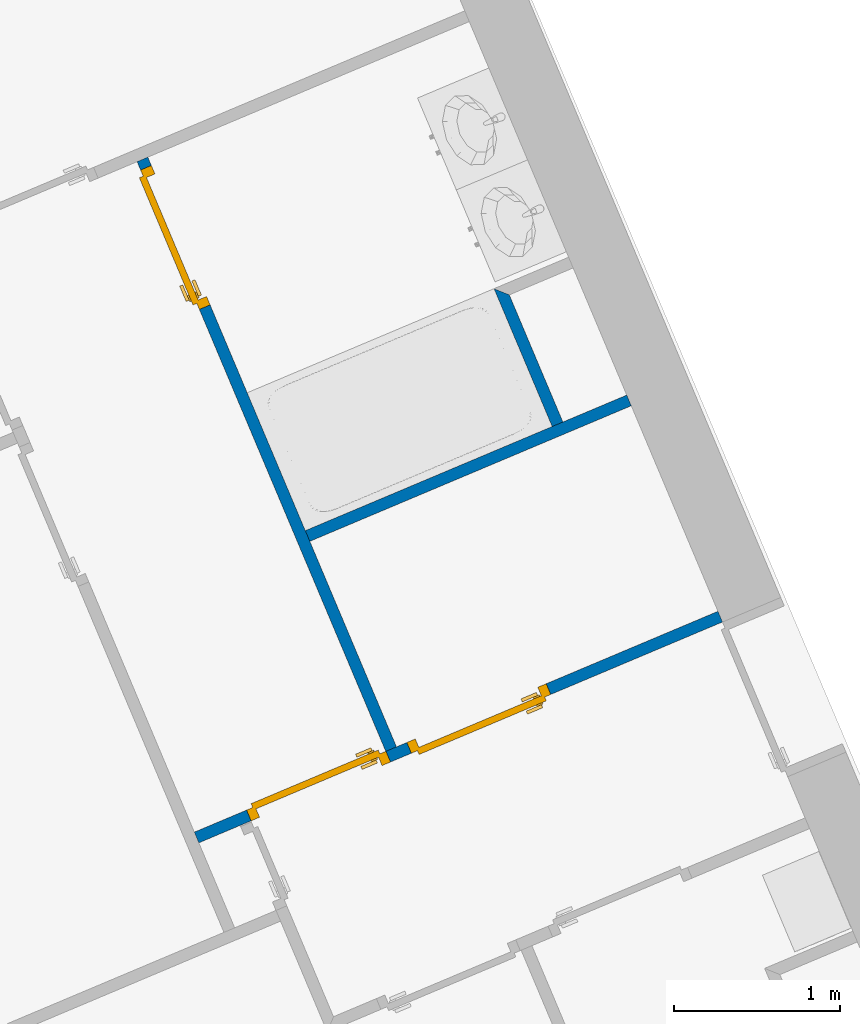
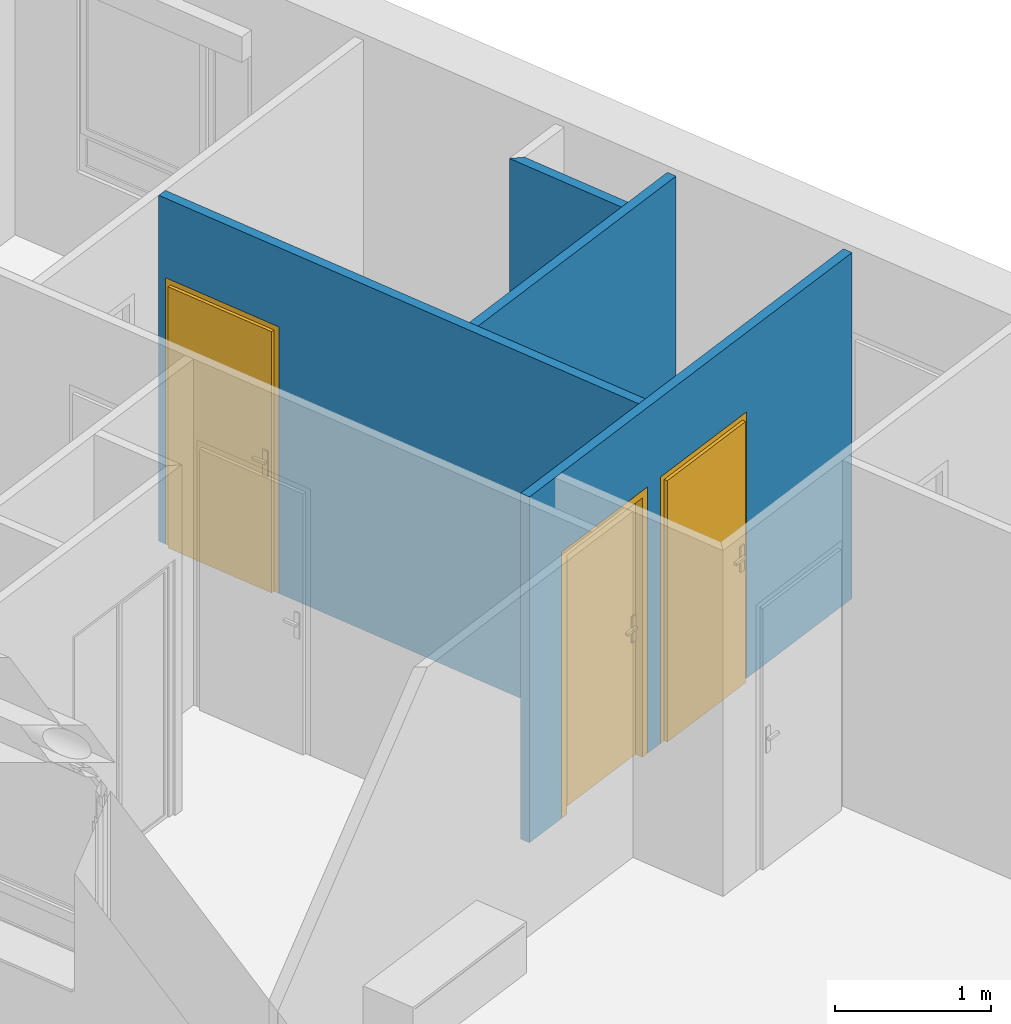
# One storey, part 53 of 195: 4 walls, 3 doors, 3 openings.
"""IFC2X3 building model written with IfcOpenShell, lengths in metres."""

from ifc_helpers import new_model, entity, si_unit, converted_unit, derived_unit, money_unit, direction, frame, origin_with_axes, origin_2d_with_axis, place, context, subcontext, project, spatial, polyline, rectangle, outline, extrude, faceted_brep, source, transform, mapped, material, layer, layer_set, layer_usage, type_object, element, fill, save


model = new_model("IFC2X3")

# Units and contexts
model_context = context("Model", 3, precision=1e-05, world=origin_with_axes(), true_north=direction((0.0, 1.0)))
body_context = subcontext(model_context, "Body", "Model", "MODEL_VIEW")
ifc_project = project(units=[si_unit("LENGTHUNIT", "METRE"), si_unit("AREAUNIT", "SQUARE_METRE"), si_unit("VOLUMEUNIT", "CUBIC_METRE"), converted_unit("PLANEANGLEUNIT", "DEGREE", entity("IfcPlaneAngleMeasure", 0.0174532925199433), si_unit("PLANEANGLEUNIT", "RADIAN"), dimensions=[0, 0, 0, 0, 0, 0, 0]), money_unit("CHF"), converted_unit("TIMEUNIT", "Year", entity("IfcTimeMeasure", 31557600.0), si_unit("TIMEUNIT", "SECOND"), dimensions=[0, 0, 1, 0, 0, 0, 0]), si_unit("MASSUNIT", "GRAM", prefix="KILO"), si_unit("THERMODYNAMICTEMPERATUREUNIT", "DEGREE_CELSIUS"), si_unit("LUMINOUSINTENSITYUNIT", "LUMEN"), si_unit("ENERGYUNIT", "JOULE", prefix="MEGA"), derived_unit("THERMALCONDUCTANCEUNIT", [(si_unit("POWERUNIT", "WATT"), 1), (si_unit("LENGTHUNIT", "METRE"), -1), (si_unit("THERMODYNAMICTEMPERATUREUNIT", "KELVIN"), -1)]), derived_unit("SPECIFICHEATCAPACITYUNIT", [(si_unit("ENERGYUNIT", "JOULE"), 1), (si_unit("MASSUNIT", "GRAM", prefix="KILO"), -1), (si_unit("THERMODYNAMICTEMPERATUREUNIT", "KELVIN"), -1)]), derived_unit("MASSDENSITYUNIT", [(si_unit("MASSUNIT", "GRAM", prefix="KILO"), 1), (si_unit("VOLUMEUNIT", "CUBIC_METRE"), -1)])], contexts=[model_context])

# Site, building, storey
site_placement = place(None, origin_with_axes())
site = spatial("IfcSite", under=ifc_project, at=site_placement, Name="Site", CompositionType="ELEMENT")
building_placement = place(site_placement, origin_with_axes())
building = spatial("IfcBuilding", under=site, at=building_placement, Name="Bâtiment", CompositionType="ELEMENT")
storey_placement = place(building_placement, origin_with_axes())
storey = spatial("IfcBuildingStorey", under=building, at=storey_placement, Name="rdc", CompositionType="ELEMENT", Elevation=0.0)

# Walls
ifc_material = material(Name="Hachure solide 268963992")
ifc_layer = layer(ifc_material, 0.07, ventilated="UNKNOWN")
ifc_layer_set = layer_set([ifc_layer], Name="Cloison 70 0826278243")
ifc_layer_usage_1 = layer_usage(ifc_layer_set, "AXIS2", "NEGATIVE", 0.0)
wall_type = type_object("IfcWallType", Name="Cloison 70 0826278243 70", PredefinedType="NOTDEFINED")
wall_1_placement = place(storey_placement, frame((9571.416717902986, -1046.925586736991, 57.7), z_axis=(0.0, 0.0, 1.0), x_axis=(0.3885669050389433, -0.9214205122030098, 0.0)))
element("IfcWallStandardCase", 1, at=wall_1_placement, inside=storey, type_object=wall_type, material=ifc_layer_usage_1, Name="Mur-149", context=body_context, shape_type="SweptSolid", body=[
    extrude(outline(polyline([(-0.06999999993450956, -0.07000000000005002), (0.8299999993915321, -0.07000000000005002), (0.8299999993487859, 0.0), (0.0, 0.0), (-0.06999999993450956, -0.07000000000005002)])), origin_with_axes(), (0.0, 0.0, 1.0), 2.7),
])
ifc_layer_usage_2 = layer_usage(ifc_layer_set, "AXIS2", "NEGATIVE", 0.0)
wall_2_placement = place(storey_placement, frame((9572.500812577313, -1047.445172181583, 57.7), z_axis=(0.0, 0.0, 1.0), x_axis=(-0.9214205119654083, -0.388566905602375, 0.0)))
element("IfcWallStandardCase", 2, at=wall_2_placement, inside=storey, type_object=wall_type, material=ifc_layer_usage_2, Name="Mur-149", context=body_context, shape_type="SweptSolid", body=[
    extrude(outline(polyline([(0.3799999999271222, -0.06999999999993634), (2.478769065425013, -0.06999999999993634), (2.478769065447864, 0.0), (0.3799999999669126, 0.0), (0.3799999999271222, -0.06999999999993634)])), origin_with_axes(), (0.0, 0.0, 1.0), 2.7),
])

# Wall, openings, doors
ifc_layer_usage_3 = layer_usage(ifc_layer_set, "AXIS2", "NEGATIVE", 0.0)
wall_3_placement = place(storey_placement, frame((9573.049362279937, -1048.745964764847, 57.7), z_axis=(0.0, 0.0, 1.0), x_axis=(-0.921420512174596, -0.3885669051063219, 0.0)))
wall_3 = element("IfcWallStandardCase", 3, at=wall_3_placement, inside=storey, type_object=wall_type, material=ifc_layer_usage_3, Name="Mur-149", context=body_context, shape_type="SweptSolid", body=[
    extrude(outline(polyline([(0.3799999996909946, -0.07000000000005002), (3.798769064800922, -0.06999999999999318), (3.798769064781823, 0.0), (0.379999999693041, 0.0), (0.3799999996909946, -0.07000000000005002)])), origin_with_axes(), (0.0, 0.0, 1.0), 2.7),
])
opening_1_placement = place(wall_3_placement, frame((1.956257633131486, 0.0, 0.0), z_axis=(0.0, 0.0, 1.0), x_axis=(1.0, 0.0, 0.0)))
opening_1 = element("IfcOpeningElement", 4, at=opening_1_placement, cuts=wall_3, Name="Por-299", context=body_context, shape_type="SweptSolid", body=[
    extrude(rectangle(XDim=0.9099999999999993, YDim=2.079999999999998, at=origin_2d_with_axis()), frame((0.0, -0.06999999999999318, 1.039999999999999), z_axis=(0.0, 1.0, 0.0), x_axis=(1.0, 0.0, 0.0)), (0.0, 0.0, 1.0), 0.14),
])
opening_2_placement = place(wall_3_placement, frame((3.002404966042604, 0.0, 0.0), z_axis=(0.0, 0.0, 1.0), x_axis=(1.0, 0.0, 0.0)))
opening_2 = element("IfcOpeningElement", 5, at=opening_2_placement, cuts=wall_3, Name="Por-299", context=body_context, shape_type="SweptSolid", body=[
    extrude(rectangle(XDim=0.9099999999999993, YDim=2.079999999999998, at=origin_2d_with_axis()), frame((0.0, 0.06999999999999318, 1.039999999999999), z_axis=(0.0, 1.0, 0.0), x_axis=(1.0, 0.0, 0.0)), (0.0, 0.0, -1.0), 0.14),
])
door_style = type_object("IfcDoorStyle", Name="Porte_1v", ConstructionType="NOTDEFINED", OperationType="NOTDEFINED", ParameterTakesPrecedence=False, Sizeable=False)
shared_shape_1 = source(origin_with_axes(), body_context, "Body", "Brep", [
    faceted_brep([(0.455, 0.0, 0.0), (0.415, 0.0, 0.0), (0.415, 0.0, 2.04), (-0.415, 0.0, 2.04), (-0.415, 0.0, 0.0), (-0.455, 0.0, 0.0), (-0.455, 0.0, 2.08), (0.455, 0.0, 2.08), (0.455, -0.07, 0.0), (0.4, -0.07, 0.0), (0.4, -0.015, 0.0), (0.415, -0.015, 0.0), (0.415, -0.015, 2.04), (-0.415, -0.015, 2.04), (-0.415, -0.015, 0.0), (-0.4, -0.015, 0.0), (-0.4, -0.07, 0.0), (-0.455, -0.07, 0.0), (-0.455, -0.07, 2.08), (0.455, -0.07, 2.08), (-0.4, -0.07, 2.025), (0.4, -0.07, 2.025), (0.4, -0.015, 2.025), (-0.4, -0.015, 2.025)], [[[0, 1, 2, 3, 4, 5, 6, 7]], [[0, 8, 9, 10, 11, 1]], [[1, 11, 12, 2]], [[2, 12, 13, 3]], [[3, 13, 14, 4]], [[5, 4, 14, 15, 16, 17]], [[18, 6, 5, 17]], [[19, 7, 6, 18]], [[8, 0, 7, 19]], [[9, 8, 19, 18, 17, 16, 20, 21]], [[10, 9, 21, 22]], [[11, 10, 22, 23, 15, 14, 13, 12]], [[23, 20, 16, 15]], [[22, 21, 20, 23]]]),
    faceted_brep([(-0.35, -0.015, 0.9), (-0.39, -0.015, 0.9), (-0.39, -0.015, 1.1), (-0.35, -0.015, 1.1), (-0.35, -0.025, 0.9), (-0.39, -0.025, 0.9), (-0.39, -0.025, 1.1), (-0.35, -0.025, 1.1)], [[[0, 1, 2, 3]], [[1, 0, 4, 5]], [[2, 1, 5, 6]], [[3, 2, 6, 7]], [[0, 3, 7, 4]], [[5, 4, 7, 6]]]),
    faceted_brep([(-0.28, -0.025, 1.0), (-0.38, -0.025, 1.0), (-0.38, -0.025, 1.02), (-0.28, -0.025, 1.02), (-0.28, -0.045, 1.0), (-0.38, -0.045, 1.0), (-0.38, -0.045, 1.02), (-0.28, -0.045, 1.02)], [[[0, 1, 2, 3]], [[1, 0, 4, 5]], [[2, 1, 5, 6]], [[3, 2, 6, 7]], [[0, 3, 7, 4]], [[5, 4, 7, 6]]]),
    faceted_brep([(-0.35, 0.035, 0.9), (-0.39, 0.035, 0.9), (-0.39, 0.035, 1.1), (-0.35, 0.035, 1.1), (-0.35, 0.025, 0.9), (-0.39, 0.025, 0.9), (-0.39, 0.025, 1.1), (-0.35, 0.025, 1.1)], [[[0, 1, 2, 3]], [[1, 0, 4, 5]], [[2, 1, 5, 6]], [[3, 2, 6, 7]], [[0, 3, 7, 4]], [[5, 4, 7, 6]]]),
    faceted_brep([(-0.28, 0.05500000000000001, 1.0), (-0.38, 0.05500000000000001, 1.0), (-0.38, 0.05500000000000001, 1.02), (-0.28, 0.05500000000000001, 1.02), (-0.28, 0.035, 1.0), (-0.38, 0.035, 1.0), (-0.38, 0.035, 1.02), (-0.28, 0.035, 1.02)], [[[0, 1, 2, 3]], [[1, 0, 4, 5]], [[2, 1, 5, 6]], [[3, 2, 6, 7]], [[0, 3, 7, 4]], [[5, 4, 7, 6]]]),
    faceted_brep([(-0.415, 0.025, 0.0), (0.415, 0.025, 0.0), (0.415, -0.015, 0.0), (-0.415, -0.015, 0.0), (-0.415, 0.025, 2.04), (0.415, 0.025, 2.04), (0.415, -0.015, 2.04), (-0.415, -0.015, 2.04)], [[[0, 1, 2, 3]], [[0, 4, 5, 1]], [[1, 5, 6, 2]], [[3, 2, 6, 7]], [[4, 0, 3, 7]], [[5, 4, 7, 6]]]),
])
door_1_placement = place(opening_1_placement, frame((-0.4149999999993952, 0.0, 0.0), z_axis=(0.0, 0.0, 1.0), x_axis=(1.0, 0.0, 0.0)))
door_1 = element("IfcDoor", 6, at=door_1_placement, inside=storey, type_object=door_style, Name="Por-299", OverallHeight=2.04, OverallWidth=0.83, context=body_context, shape_type="MappedRepresentation", body=[
    mapped(shared_shape_1, transform((0.4149999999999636, 0.0, 0.0))),
])
fill(opening_1, door_1)
shared_shape_2 = source(origin_with_axes(), body_context, "Body", "Brep", [
    faceted_brep([(-0.455, 0.0, 0.0), (-0.455, 0.0, 2.08), (0.455, 0.0, 2.08), (0.455, 0.0, 0.0), (0.415, 0.0, 0.0), (0.415, 0.0, 2.04), (-0.415, 0.0, 2.04), (-0.415, 0.0, 0.0), (-0.455, -0.07, 0.0), (-0.455, -0.07, 2.08), (0.455, -0.07, 2.08), (0.455, -0.07, 0.0), (0.4, -0.07, 0.0), (0.4, -0.015, 0.0), (0.415, -0.015, 0.0), (0.415, -0.015, 2.04), (-0.415, -0.015, 2.04), (-0.415, -0.015, 0.0), (-0.4, -0.015, 0.0), (-0.4, -0.07, 0.0), (-0.4, -0.07, 2.025), (0.4, -0.07, 2.025), (0.4, -0.015, 2.025), (-0.4, -0.015, 2.025)], [[[0, 1, 2, 3, 4, 5, 6, 7]], [[8, 9, 1, 0]], [[9, 10, 2, 1]], [[10, 11, 3, 2]], [[3, 11, 12, 13, 14, 4]], [[5, 4, 14, 15]], [[6, 5, 15, 16]], [[7, 6, 16, 17]], [[0, 7, 17, 18, 19, 8]], [[19, 20, 21, 12, 11, 10, 9, 8]], [[22, 13, 12, 21]], [[17, 16, 15, 14, 13, 22, 23, 18]], [[18, 23, 20, 19]], [[23, 22, 21, 20]]]),
    faceted_brep([(0.35, -0.015, 0.9), (0.35, -0.015, 1.1), (0.39, -0.015, 1.1), (0.39, -0.015, 0.9), (0.35, -0.025, 0.9), (0.35, -0.025, 1.1), (0.39, -0.025, 1.1), (0.39, -0.025, 0.9)], [[[0, 1, 2, 3]], [[0, 4, 5, 1]], [[1, 5, 6, 2]], [[2, 6, 7, 3]], [[3, 7, 4, 0]], [[7, 6, 5, 4]]]),
    faceted_brep([(0.28, -0.025, 1.0), (0.28, -0.025, 1.02), (0.38, -0.025, 1.02), (0.38, -0.025, 1.0), (0.28, -0.045, 1.0), (0.28, -0.045, 1.02), (0.38, -0.045, 1.02), (0.38, -0.045, 1.0)], [[[0, 1, 2, 3]], [[0, 4, 5, 1]], [[1, 5, 6, 2]], [[2, 6, 7, 3]], [[3, 7, 4, 0]], [[7, 6, 5, 4]]]),
    faceted_brep([(0.35, 0.035, 0.9), (0.35, 0.035, 1.1), (0.39, 0.035, 1.1), (0.39, 0.035, 0.9), (0.35, 0.025, 0.9), (0.35, 0.025, 1.1), (0.39, 0.025, 1.1), (0.39, 0.025, 0.9)], [[[0, 1, 2, 3]], [[0, 4, 5, 1]], [[1, 5, 6, 2]], [[2, 6, 7, 3]], [[3, 7, 4, 0]], [[7, 6, 5, 4]]]),
    faceted_brep([(0.28, 0.05500000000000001, 1.0), (0.28, 0.05500000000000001, 1.02), (0.38, 0.05500000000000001, 1.02), (0.38, 0.05500000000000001, 1.0), (0.28, 0.035, 1.0), (0.28, 0.035, 1.02), (0.38, 0.035, 1.02), (0.38, 0.035, 1.0)], [[[0, 1, 2, 3]], [[0, 4, 5, 1]], [[1, 5, 6, 2]], [[2, 6, 7, 3]], [[3, 7, 4, 0]], [[7, 6, 5, 4]]]),
    faceted_brep([(0.415, 0.025, 0.0), (0.415, -0.015, 0.0), (-0.415, -0.015, 0.0), (-0.415, 0.025, 0.0), (0.415, 0.025, 2.04), (0.415, -0.015, 2.04), (-0.415, -0.015, 2.04), (-0.415, 0.025, 2.04)], [[[0, 1, 2, 3]], [[4, 5, 1, 0]], [[1, 5, 6, 2]], [[3, 2, 6, 7]], [[0, 3, 7, 4]], [[7, 6, 5, 4]]]),
])
door_2_placement = place(opening_2_placement, frame((0.4149999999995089, 0.0, 0.0), z_axis=(0.0, 0.0, 1.0), x_axis=(-1.0, 0.0, 0.0)))
door_2 = element("IfcDoor", 7, at=door_2_placement, inside=storey, type_object=door_style, Name="Por-299", OverallHeight=2.04, OverallWidth=0.83, context=body_context, shape_type="MappedRepresentation", body=[
    mapped(shared_shape_2, transform((0.4149999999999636, 0.07000000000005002, 0.0))),
])
fill(opening_2, door_2)

# Wall, opening, door
ifc_layer_usage_4 = layer_usage(ifc_layer_set, "AXIS2", "NEGATIVE", 0.0)
wall_4_placement = place(storey_placement, frame((9569.242156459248, -1046.097081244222, 57.7), z_axis=(0.0, 0.0, 1.0), x_axis=(0.388566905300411, -0.9214205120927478, 0.0)))
wall_4 = element("IfcWallStandardCase", 8, at=wall_4_placement, inside=storey, type_object=wall_type, material=ifc_layer_usage_4, Name="Mur-149", context=body_context, shape_type="SweptSolid", body=[
    extrude(outline(polyline([(-9.488871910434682e-10, -0.06999999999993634), (3.850089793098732, -0.06999999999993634), (3.850089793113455, 0.0), (-9.066525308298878e-10, 0.0), (-9.488871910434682e-10, -0.06999999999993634)])), origin_with_axes(), (0.0, 0.0, 1.0), 2.7),
])
opening_3_placement = place(wall_4_placement, frame((0.5097203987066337, 0.0, 0.0), z_axis=(0.0, 0.0, 1.0), x_axis=(1.0, 0.0, 0.0)))
opening_3 = element("IfcOpeningElement", 9, at=opening_3_placement, cuts=wall_4, Name="Por-299", context=body_context, shape_type="SweptSolid", body=[
    extrude(rectangle(XDim=0.9099999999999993, YDim=2.079999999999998, at=origin_2d_with_axis()), frame((0.0, 0.07000000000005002, 1.039999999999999), z_axis=(0.0, -1.0, 0.0), x_axis=(-1.0, 0.0, 0.0)), (0.0, 0.0, 1.0), 0.14),
])
door_3_placement = place(opening_3_placement, frame((0.4149999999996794, 0.0, 0.0), z_axis=(0.0, 0.0, 1.0), x_axis=(-1.0, 0.0, 0.0)))
door_3 = element("IfcDoor", 10, at=door_3_placement, inside=storey, type_object=door_style, Name="Por-299", OverallHeight=2.04, OverallWidth=0.83, context=body_context, shape_type="MappedRepresentation", body=[
    mapped(shared_shape_1, transform((0.4149999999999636, 0.07000000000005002, 0.0))),
])
fill(opening_3, door_3)

save(model, "model.ifc")
